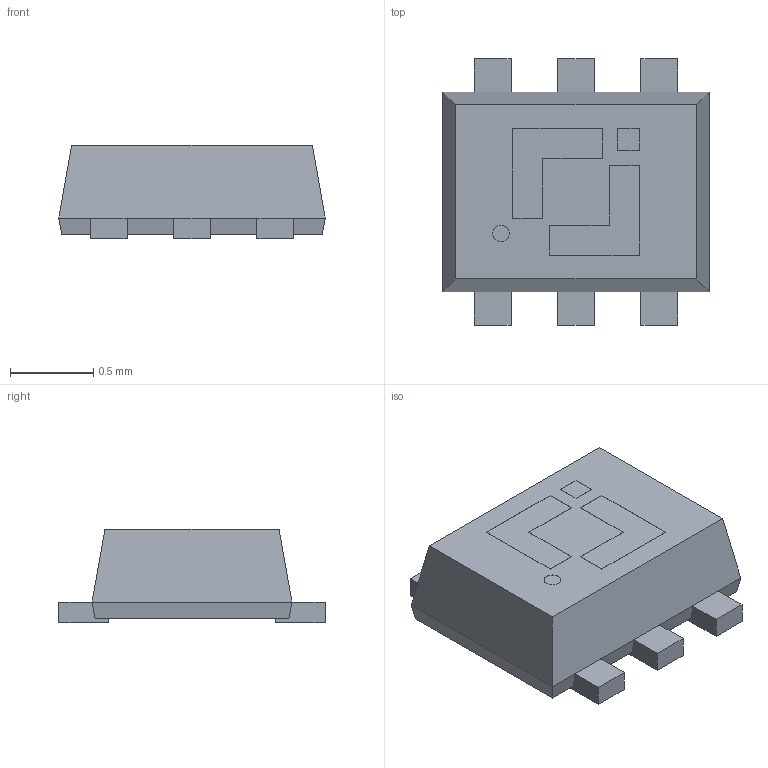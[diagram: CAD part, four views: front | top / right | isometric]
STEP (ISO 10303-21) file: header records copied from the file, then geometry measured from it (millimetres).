
FILE_DESCRIPTION(('HOOPS Exchange Step'),'2;1');
FILE_NAME('C:\Users\JSCJ\AppData\Local\Packages\Shapr3D.Shapr3D_dvv5p1vgwv6mp\TempState\export\temp_export','2025-12-04T09:51:04+08:00',('JSCJ'),('Shapr3D Limited'),'HOOPS Exchange 2025.7','Shapr3D','Authorized');
FILE_SCHEMA( ('AP242_MANAGED_MODEL_BASED_3D_ENGINEERING_MIM_LF {1 0 10303 442 1 1 4}') );
Length unit declared in the file: millimetre
Products named in the file (1): root
Bounding box: 1.6 x 1.6 x 0.56 mm (x, y, z)
Volume: 1 mm3; surface area: 7.8 mm2
Topology: 7 solids, 7 shells, 67 faces, 145 edges, 96 vertices
Faces by surface type: plane 66, cylinder 1
Full cylindrical faces by diameter (mm): 0.1 x1
Entity records: 1852 total; most frequent: CARTESIAN_POINT 310, ORIENTED_EDGE 290, DIRECTION 287, EDGE_CURVE 145, VECTOR 141, LINE 141, VERTEX_POINT 96, AXIS2_PLACEMENT_3D 73
